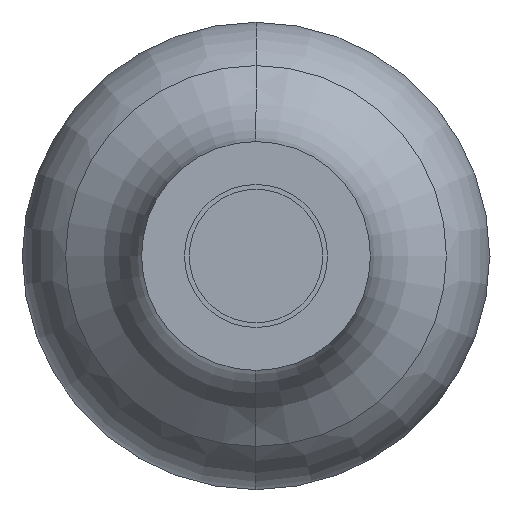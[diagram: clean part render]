
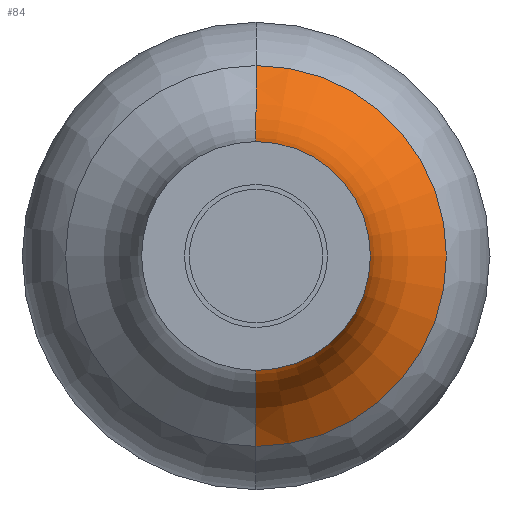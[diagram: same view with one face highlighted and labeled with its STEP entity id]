
A CAD part, left-side view. The second image highlights one B-rep face of the part: STEP entity #84.
In plain terms, the highlighted toroidal (fillet/blend) face has major radius 10.939 mm and minor radius 6.157 mm.
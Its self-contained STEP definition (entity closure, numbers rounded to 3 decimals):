
#84 = ADVANCED_FACE( '', ( #166 ), #167, .F. );
#166 = FACE_OUTER_BOUND( '', #320, .T. );
#167 = TOROIDAL_SURFACE( '', #321, 10.939, 6.157 );
#320 = EDGE_LOOP( '', ( #528, #529, #530, #531, #532 ) );
#321 = AXIS2_PLACEMENT_3D( '', #533, #534, #535 );
#528 = ORIENTED_EDGE( '', *, *, #1063, .F. );
#529 = ORIENTED_EDGE( '', *, *, #1064, .T. );
#530 = ORIENTED_EDGE( '', *, *, #1065, .F. );
#531 = ORIENTED_EDGE( '', *, *, #1066, .F. );
#532 = ORIENTED_EDGE( '', *, *, #1060, .F. );
#533 = CARTESIAN_POINT( '', ( -64.723, 0., 0. ) );
#534 = DIRECTION( '', ( -1., 0., 0. ) );
#535 = DIRECTION( '', ( 0., 0., 1. ) );
#1060 = EDGE_CURVE( '', #1266, #1268, #1269, .T. );
#1063 = EDGE_CURVE( '', #1273, #1266, #1274, .T. );
#1064 = EDGE_CURVE( '', #1273, #1275, #1276, .T. );
#1065 = EDGE_CURVE( '', #1277, #1275, #1278, .T. );
#1066 = EDGE_CURVE( '', #1268, #1277, #1279, .T. );
#1266 = VERTEX_POINT( '', #1563 );
#1268 = VERTEX_POINT( '', #1565 );
#1269 = CIRCLE( '', #1566, 4.8 );
#1273 = VERTEX_POINT( '', #1571 );
#1274 = CIRCLE( '', #1572, 6.157 );
#1275 = VERTEX_POINT( '', #1573 );
#1276 = CIRCLE( '', #1574, 7.987 );
#1277 = VERTEX_POINT( '', #1575 );
#1278 = CIRCLE( '', #1576, 6.157 );
#1279 = CIRCLE( '', #1577, 4.8 );
#1563 = CARTESIAN_POINT( '', ( -64.253, 0., -4.8 ) );
#1565 = CARTESIAN_POINT( '', ( -64.253, -4.8, 0. ) );
#1566 = AXIS2_PLACEMENT_3D( '', #1945, #1946, #1947 );
#1571 = CARTESIAN_POINT( '', ( -59.32, 0., -7.987 ) );
#1572 = AXIS2_PLACEMENT_3D( '', #1952, #1953, #1954 );
#1573 = CARTESIAN_POINT( '', ( -59.32, 0., 7.987 ) );
#1574 = AXIS2_PLACEMENT_3D( '', #1955, #1956, #1957 );
#1575 = CARTESIAN_POINT( '', ( -64.253, 0., 4.8 ) );
#1576 = AXIS2_PLACEMENT_3D( '', #1958, #1959, #1960 );
#1577 = AXIS2_PLACEMENT_3D( '', #1961, #1962, #1963 );
#1945 = CARTESIAN_POINT( '', ( -64.253, 0., 0. ) );
#1946 = DIRECTION( '', ( -1., 0., 0. ) );
#1947 = DIRECTION( '', ( 0., 1., 0. ) );
#1952 = CARTESIAN_POINT( '', ( -64.723, 0., -10.939 ) );
#1953 = DIRECTION( '', ( 0., -1., 0. ) );
#1954 = DIRECTION( '', ( 0., 0., -1. ) );
#1955 = CARTESIAN_POINT( '', ( -59.32, 0., 0. ) );
#1956 = DIRECTION( '', ( -1., 0., 0. ) );
#1957 = DIRECTION( '', ( 0., 1., 0. ) );
#1958 = CARTESIAN_POINT( '', ( -64.723, 0., 10.939 ) );
#1959 = DIRECTION( '', ( 0., -1., 0. ) );
#1960 = DIRECTION( '', ( 0., 0., 1. ) );
#1961 = CARTESIAN_POINT( '', ( -64.253, 0., 0. ) );
#1962 = DIRECTION( '', ( -1., 0., 0. ) );
#1963 = DIRECTION( '', ( 0., 1., 0. ) );
